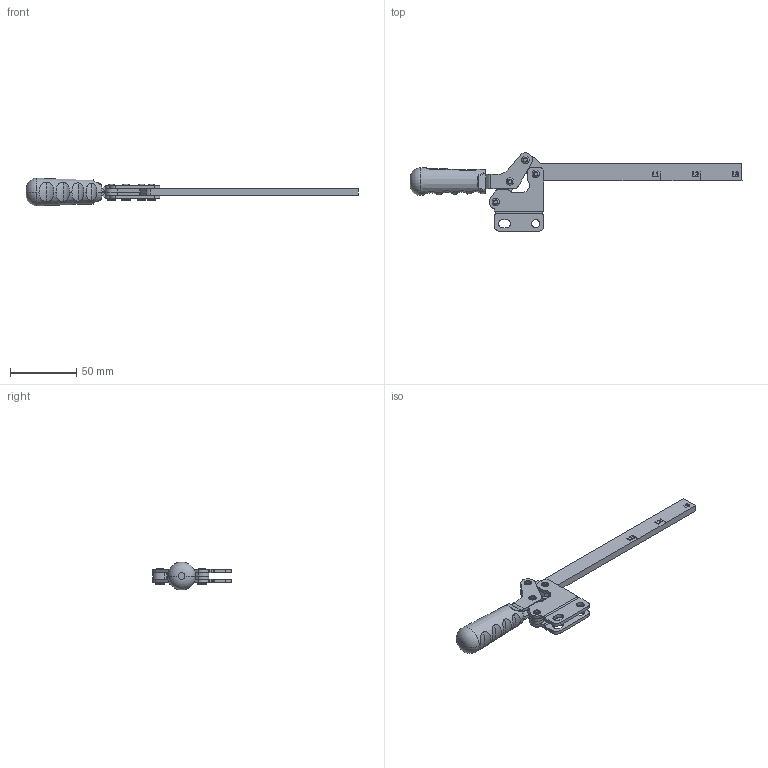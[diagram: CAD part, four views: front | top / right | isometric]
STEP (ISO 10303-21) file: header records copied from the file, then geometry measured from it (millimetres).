
FILE_DESCRIPTION (( 'STEP AP203' ), '1' );
FILE_NAME ('1202_D_L.STEP', '2022-11-23T05:56:24', ( '' ), ( '' ), 'SwSTEP 2.0', 'SolidWorks 2023', '' );
FILE_SCHEMA (( 'CONFIG_CONTROL_DESIGN' ));
Length unit declared in the file: millimetre
Products named in the file (8): Y_1205_HareketKolu_Varsayılan; Y_1205_Mafsal_Varsayılan; Y_1205_BaskıKolu_Lama l2 Almanya_Varsayılan; Y_1205_GOVDE_Varsayılan; 1202_D_L; AynalamaY_1205_HareketKolu_Varsayılan; Pim_4x12_5_Varsayılan; C55_Yeni_Tutamak_Varsayılan
Assembly tree (11 placements, depth 2):
  1202_D_L
    Y_1205_GOVDE_Varsayılan
    Y_1205_HareketKolu_Varsayılan
    Y_1205_Mafsal_Varsayılan  x2
    Pim_4x12_5_Varsayılan  x4
    AynalamaY_1205_HareketKolu_Varsayılan
    C55_Yeni_Tutamak_Varsayılan
    Y_1205_BaskıKolu_Lama l2 Almanya_Varsayılan
Bounding box: 250.12 x 59.04 x 20.98 mm (x, y, z)
Volume: 37473.3 mm3; surface area: 26504.6 mm2
Topology: 12 solids, 12 shells, 801 faces, 2116 edges, 1370 vertices
Faces by surface type: plane 451, cylinder 204, bspline 110, torus 34, cone 2
Entity records: 25561 total; most frequent: CARTESIAN_POINT 9651, ORIENTED_EDGE 3314, DIRECTION 2767, EDGE_CURVE 1657, VERTEX_POINT 1080, LINE 1059, VECTOR 1059, AXIS2_PLACEMENT_3D 854
